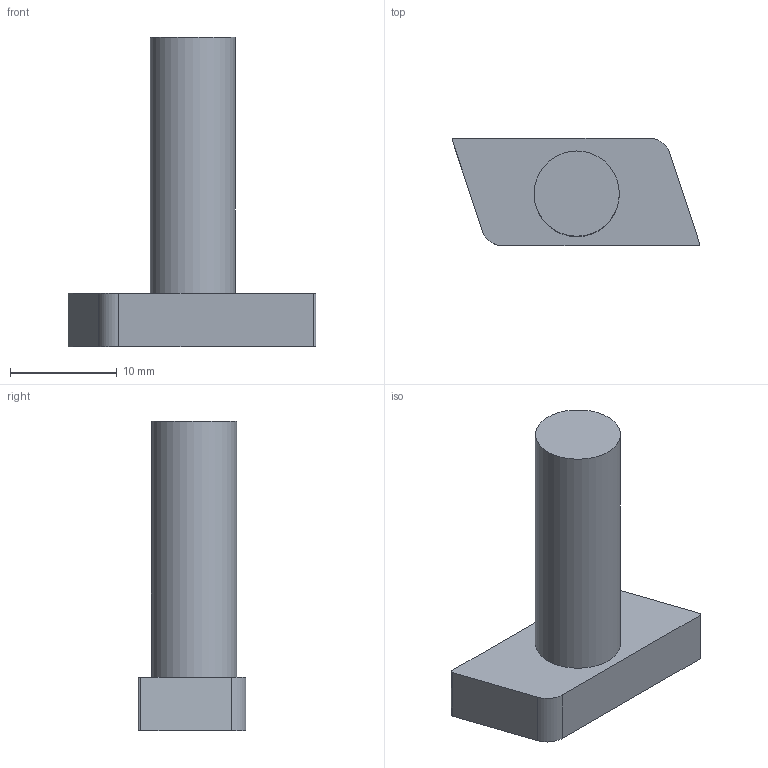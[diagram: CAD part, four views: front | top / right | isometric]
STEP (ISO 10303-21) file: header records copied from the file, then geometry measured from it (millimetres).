
FILE_DESCRIPTION((''),'2;1');
FILE_NAME('C:\Vault Klient\Carryline std\100-6070.stp','2009-12-10T12:45:12',('Mathias'),(''),'Autodesk Inventor 2010','Autodesk Inventor 2010','');
FILE_SCHEMA(('CONFIG_CONTROL_DESIGN'));
Length unit declared in the file: millimetre
Products named in the file (1): 100-6070
Bounding box: 23.21 x 10.11 x 29 mm (x, y, z)
Volume: 2212.8 mm3; surface area: 1306.7 mm2
Topology: 1 solids, 1 shells, 12 faces, 27 edges, 18 vertices
Faces by surface type: plane 7, cylinder 5
Full cylindrical faces by diameter (mm): 8 x1
Entity records: 362 total; most frequent: DIRECTION 62, CARTESIAN_POINT 57, ORIENTED_EDGE 52, EDGE_CURVE 26, AXIS2_PLACEMENT_3D 23, VERTEX_POINT 18, VECTOR 16, LINE 16
